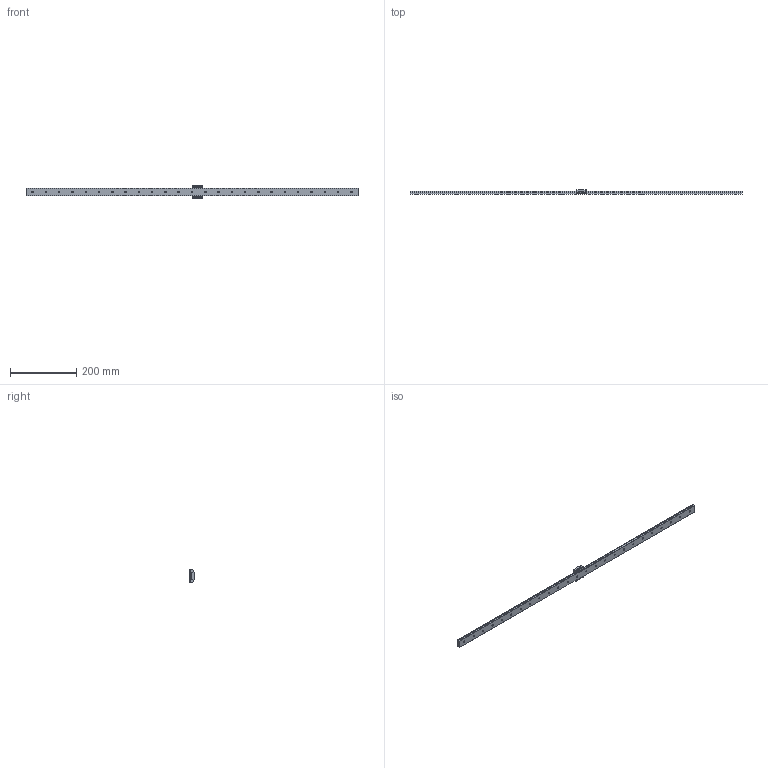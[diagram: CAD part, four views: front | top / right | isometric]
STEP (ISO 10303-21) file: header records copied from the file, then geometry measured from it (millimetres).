
FILE_DESCRIPTION(/* description */ ('STEP AP214'),/* implementation_level */ '2;1');
FILE_NAME(/* name */ 'SRS12WSSS-1000LM_G20_0_500_0_0_0_1',/* time_stamp */ '2024-01-22T14:19:57+01:00',/* author */ ('License CC BY-ND 4.0'),/* organization */ ('CADENAS'),/* preprocessor_version */ 'ST-DEVELOPER v19.3',/* originating_system */ 'PARTsolutions',/* authorisation */ ' ');
FILE_SCHEMA (('AUTOMOTIVE_DESIGN {1 0 10303 214 3 1 1}'));
Length unit declared in the file: millimetre
Products named in the file (3): SRS12WSSS-1000LM_G20_0_500_0_0_0_1; SRS12WS100020 Track; SRS12WSSS1 Slider
Assembly tree (2 placements, depth 2):
  SRS12WSSS-1000LM_G20_0_500_0_0_0_1
    SRS12WS100020 Track
    SRS12WSSS1 Slider
Bounding box: 1000 x 14 x 40 mm (x, y, z)
Volume: 202784.1 mm3; surface area: 73034.3 mm2
Topology: 2 solids, 2 shells, 197 faces, 492 edges, 326 vertices
Faces by surface type: plane 111, cylinder 82, cone 4
Full cylindrical faces by diameter (mm): 2 x2, 2.459 x2, 4.5 x25, 8 x25
Entity records: 5761 total; most frequent: DIRECTION 996, CARTESIAN_POINT 954, ORIENTED_EDGE 860, EDGE_CURVE 430, AXIS2_PLACEMENT_3D 366, FACE_BOUND 334, EDGE_LOOP 332, VERTEX_POINT 324
